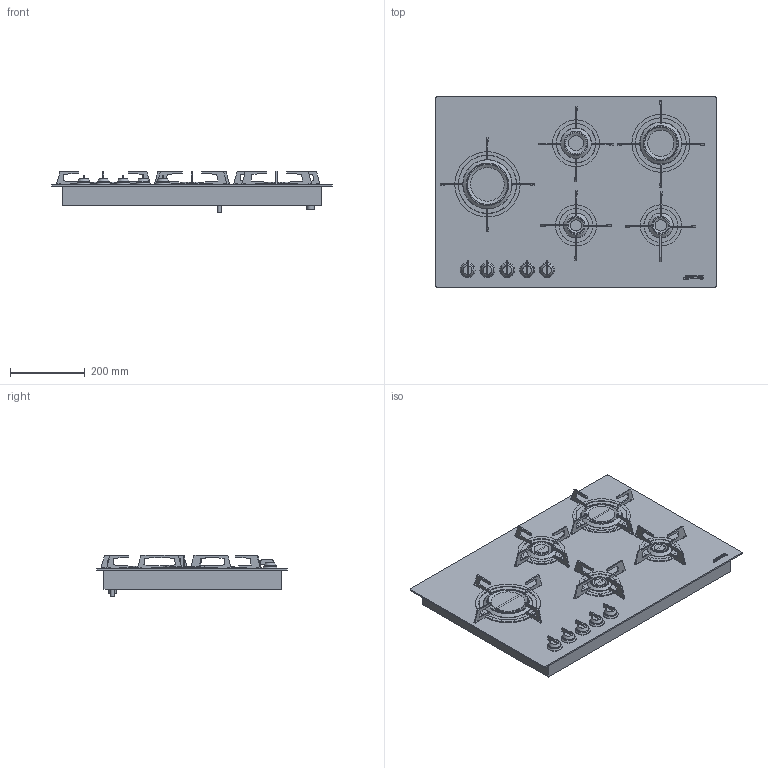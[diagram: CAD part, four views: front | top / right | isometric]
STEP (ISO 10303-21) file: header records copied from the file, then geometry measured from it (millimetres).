
FILE_DESCRIPTION(/* description */ (''),/* implementation_level */ '2;1');
FILE_NAME(/* name */ 'pianp pvl675lcn.stp',/* time_stamp */ '2018-10-29T14:27:48+01:00',/* author */ (''),/* organization */ (''),/* preprocessor_version */ 'ST-DEVELOPER v16',/* originating_system */ 'SIEMENS PLM Software NX 11.0',/* authorisation */ '');
FILE_SCHEMA (('AUTOMOTIVE_DESIGN { 1 0 10303 214 3 1 1 1 }'));
Length unit declared in the file: millimetre
Products named in the file (1): gobbF228C1C8cnvd
Bounding box: 750 x 510 x 112.16 mm (x, y, z)
Volume: 18468680.1 mm3; surface area: 1987727.5 mm2
Topology: 82 solids, 82 shells, 901 faces, 2095 edges, 1386 vertices
Faces by surface type: plane 600, cylinder 259, cone 25, extrusion 11, torus 6
Full cylindrical faces by diameter (mm): 4.608 x6, 5 x5, 10 x1, 20 x2, 25 x5, 30 x2, 40 x6, 43 x2, 47 x2, 58 x1, 62 x1, 65 x2, 67 x2, 70 x1, 80 x1, 82 x1, 88 x1, 90 x3, 91 x2, 92 x1, 98 x2, 105 x1, 106 x1, 108.4 x1, 110 x3, 112 x1, 113 x2, 125 x1, 130 x1, 132 x1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
Entity records: 25846 total; most frequent: CARTESIAN_POINT 4710, DIRECTION 4292, ORIENTED_EDGE 3968, EDGE_CURVE 1984, AXIS2_PLACEMENT_3D 1459, VECTOR 1374, VERTEX_POINT 1371, LINE 1363
